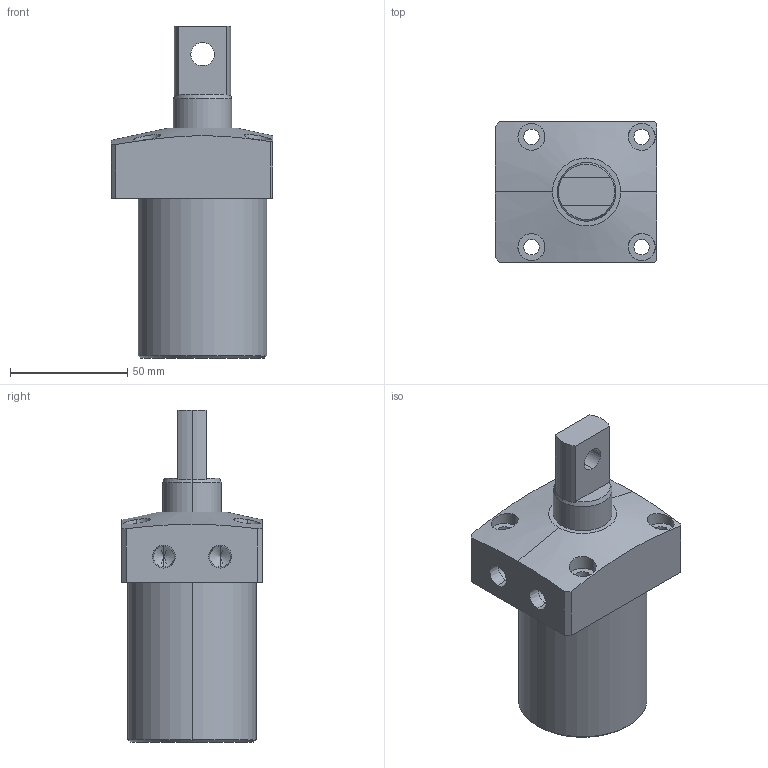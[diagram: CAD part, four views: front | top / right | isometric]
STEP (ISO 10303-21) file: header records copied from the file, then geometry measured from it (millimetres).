
FILE_DESCRIPTION (( 'STEP AP214' ), '1' );
FILE_NAME ('SC02-551-RP-PTYPE-TOP.STEP', '2021-08-22T08:00:28', ( '' ), ( '' ), 'SwSTEP 2.0', 'SolidWorks 2019', '' );
FILE_SCHEMA (( 'AUTOMOTIVE_DESIGN' ));
Length unit declared in the file: millimetre
Products named in the file (3): SC02-551-RP-PTYPE-TOP; 55-BOD-TOP; 55-PTYPE-PISTON
Assembly tree (2 placements, depth 2):
  SC02-551-RP-PTYPE-TOP
    55-BOD-TOP
    55-PTYPE-PISTON
Bounding box: 69 x 60 x 141.5 mm (x, y, z)
Volume: 274892.9 mm3; surface area: 45670 mm2
Topology: 2 solids, 2 shells, 73 faces, 170 edges, 107 vertices
Faces by surface type: cylinder 35, plane 24, cone 14
Entity records: 2568 total; most frequent: CARTESIAN_POINT 768, DIRECTION 373, ORIENTED_EDGE 332, EDGE_CURVE 166, AXIS2_PLACEMENT_3D 151, VERTEX_POINT 107, EDGE_LOOP 93, ADVANCED_FACE 73
